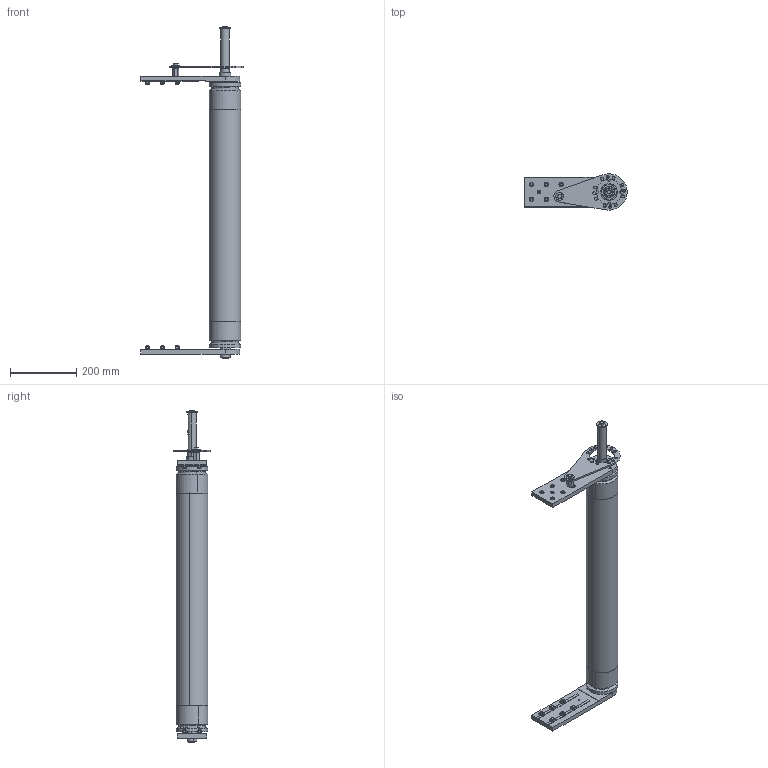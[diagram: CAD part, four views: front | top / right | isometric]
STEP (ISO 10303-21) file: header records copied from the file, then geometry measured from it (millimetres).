
FILE_DESCRIPTION (( 'STEP AP203' ), '1' );
FILE_NAME ('084.095.KDZ.63.800.STEP', '2019-07-30T08:25:12', ( '' ), ( '' ), 'SwSTEP 2.0', 'SolidWorks 2018', '' );
FILE_SCHEMA (( 'CONFIG_CONTROL_DESIGN' ));
Length unit declared in the file: millimetre
Products named in the file (20): CHIAVETTE_A 8x7x50 UNI 6604-69; DADO ESAGONALE AUTOBLOCCANTE RIBASSATO M30-UNI 7474; RONDELLE FASCIA LARGA UNI 6593_8.4x32 UNI 6593; 084.808.002_084.808.002; 084.302.000 DADI ALUSIC 13x13-1_084.302.004; VITI TE UNI 5739_M8x16 UNI 5739; 084.000.A027; 449.014.106; 084.808.005-1; 084.812.025.800_Default<A macchina>; 084.802.019_084.802.019; RONDELLE FASCIA LARGA UNI 6593_8.4x24 UNI 6593; 084.802.027; GRANI A PUNTA PIATTA UNI 5923_M8x25 UNI 5923; 084.802.034_084.802.034; 084.812.023.800_Default<A macchina>; 084.301.000 VITI ALUSIC_084.301.003; circlip for shafts normal_din_PreviewCfg; 084.808.003_084.808.003; 084.095.KDZ.63.800
Assembly tree (44 placements, depth 3):
  084.095.KDZ.63.800
    084.812.025.800_Default<A macchina>
    084.812.023.800_Default<A macchina>
    449.014.106  x2
    084.808.003_084.808.003
    084.808.002_084.808.002
    084.802.034_084.802.034
    084.802.019_084.802.019
    DADO ESAGONALE AUTOBLOCCANTE RIBASSATO M30-UNI 7474  x2
    VITI TE UNI 5739_M8x16 UNI 5739
    RONDELLE FASCIA LARGA UNI 6593_8.4x32 UNI 6593
    084.000.A027
      084.802.027
      084.808.005-1
      GRANI A PUNTA PIATTA UNI 5923_M8x25 UNI 5923
      RONDELLE FASCIA LARGA UNI 6593_8.4x24 UNI 6593
      VITI TE UNI 5739_M8x16 UNI 5739
    CHIAVETTE_A 8x7x50 UNI 6604-69
    circlip for shafts normal_din_PreviewCfg
    084.301.000 VITI ALUSIC_084.301.003  x12
    084.302.000 DADI ALUSIC 13x13-1_084.302.004  x12
Bounding box: 309.79 x 109.79 x 1005.33 mm (x, y, z)
Volume: 3596660.2 mm3; surface area: 1049931.2 mm2
Topology: 48 solids, 49 shells, 1157 faces, 2893 edges, 1868 vertices
Faces by surface type: plane 420, cylinder 390, cone 118, torus 116, bspline 104, sphere 9
Entity records: 23714 total; most frequent: CARTESIAN_POINT 5203, DIRECTION 3347, ORIENTED_EDGE 3220, EDGE_CURVE 1610, AXIS2_PLACEMENT_3D 1316, VERTEX_POINT 1046, EDGE_LOOP 768, LINE 715
